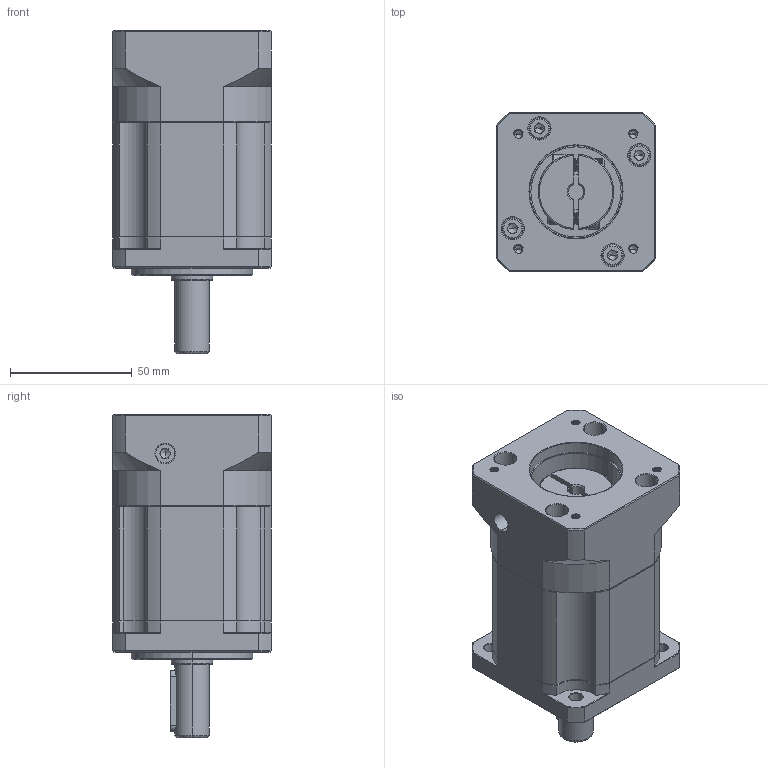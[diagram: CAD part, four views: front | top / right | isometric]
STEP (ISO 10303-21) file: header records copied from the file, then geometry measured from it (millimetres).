
FILE_DESCRIPTION (( 'STEP AP214' ), '1' );
FILE_NAME ('ZB60-D14-L2-6.35-38.1-47.14X47.14-M4.STEP', '2022-04-16T14:43:15', ( '' ), ( 'Microsoft' ), 'SwSTEP 2.0', 'SolidWorks 2016', '' );
FILE_SCHEMA (( 'AUTOMOTIVE_DESIGN' ));
Length unit declared in the file: millimetre
Products named in the file (1): ZB60-D14-L2-6.35-38.1-47.14X47.14-M4
Bounding box: 65 x 65 x 132.5 mm (x, y, z)
Volume: 334714 mm3; surface area: 58282.3 mm2
Topology: 6 solids, 6 shells, 1876 faces, 4981 edges, 3188 vertices
Faces by surface type: plane 879, cylinder 381, bspline 299, cone 281, torus 36
Entity records: 98853 total; most frequent: CARTESIAN_POINT 34024, ORIENTED_EDGE 9902, DIRECTION 8109, EDGE_CURVE 4951, VERTEX_POINT 3188, LINE 3011, VECTOR 3011, AXIS2_PLACEMENT_3D 2549
